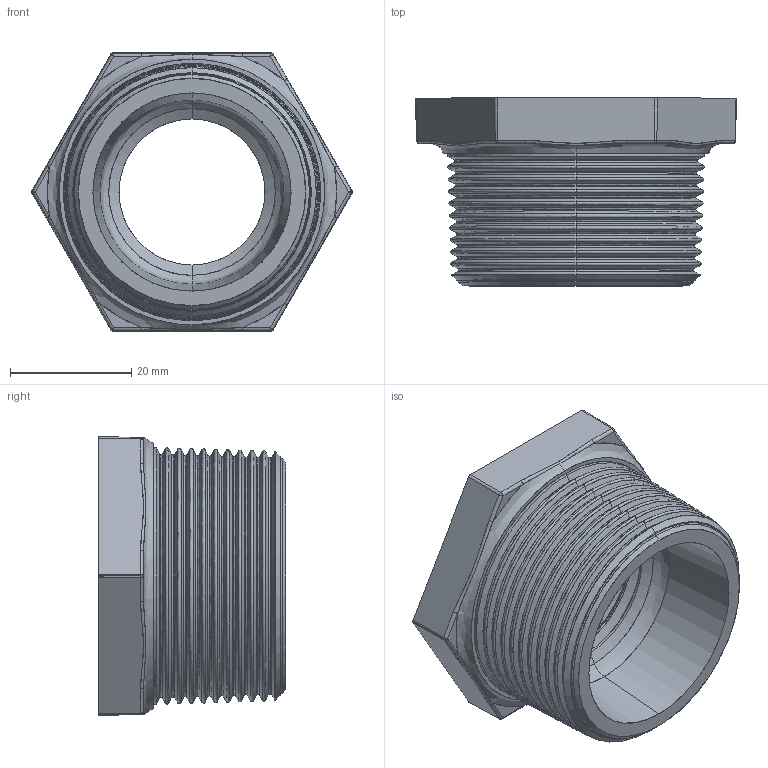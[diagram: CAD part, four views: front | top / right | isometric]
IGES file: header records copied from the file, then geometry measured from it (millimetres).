
Start section: SolidWorks IGES file using analytic representation for surfaces
Global section: file name: C:\Users\Joel Rosa\Desktop\Tubulação\12-01-OK\12-01-036.IGS; native system: SolidWorks 2011; preprocessor: SolidWorks 2011; author: Joel Rosa; date: 121203.200202; units: millimetre
Bounding box: 52.96 x 31 x 46 mm (x, y, z)
Surface area: 11645.6 mm2 (no closed solid volume)
Topology: 0 solids, 0 shells, 378 faces, 2988 edges, 2988 vertices
Faces by surface type: bspline 273, revolution 105
